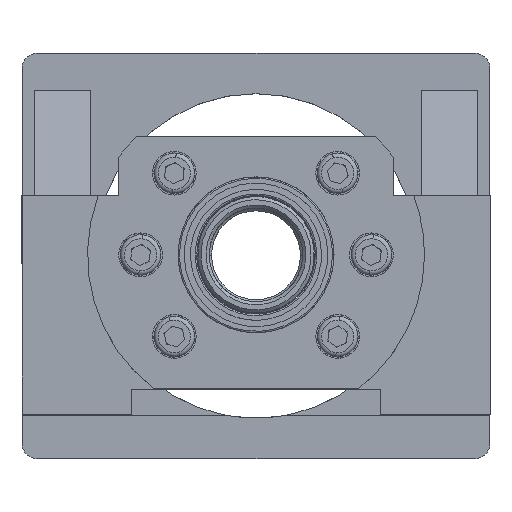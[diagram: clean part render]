
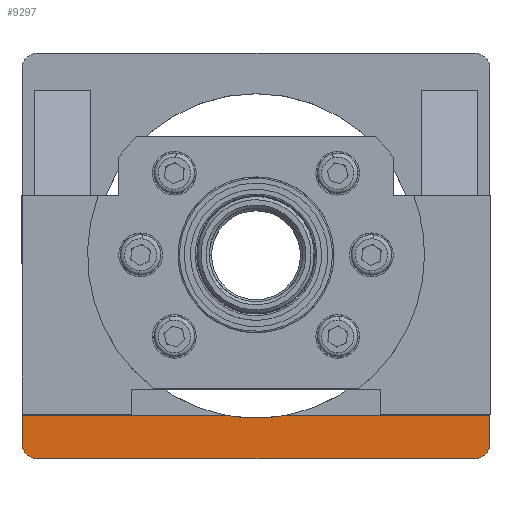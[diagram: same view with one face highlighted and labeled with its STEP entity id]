
A CAD part, top view. The second image highlights one B-rep face of the part: STEP entity #9297.
In plain terms, the highlighted planar face has unit normal (0, 0, 1).
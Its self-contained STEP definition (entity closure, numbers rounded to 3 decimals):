
#69 = EDGE_CURVE ( 'NONE', #19155, #22672, #1536, .T. ) ;
#873 = CARTESIAN_POINT ( 'NONE',  ( -70., -65., 21. ) ) ;
#1536 = LINE ( 'NONE', #18009, #6224 ) ;
#1755 = PLANE ( 'NONE',  #4606 ) ;
#2394 = VERTEX_POINT ( 'NONE', #10990 ) ;
#2870 = CARTESIAN_POINT ( 'NONE',  ( 10.099, -51.01, 21. ) ) ;
#2954 = CARTESIAN_POINT ( 'NONE',  ( 75., -51.01, 21. ) ) ;
#3859 = DIRECTION ( 'NONE',  ( 1., 0., 0. ) ) ;
#4166 = AXIS2_PLACEMENT_3D ( 'NONE', #22679, #10749, #24680 ) ;
#4187 = ORIENTED_EDGE ( 'NONE', *, *, #18259, .T. ) ;
#4411 = EDGE_CURVE ( 'NONE', #22672, #19453, #6824, .T. ) ;
#4567 = ORIENTED_EDGE ( 'NONE', *, *, #14394, .T. ) ;
#4606 = AXIS2_PLACEMENT_3D ( 'NONE', #15656, #15736, #3859 ) ;
#5478 = ORIENTED_EDGE ( 'NONE', *, *, #69, .T. ) ;
#5717 = DIRECTION ( 'NONE',  ( 1., 0., 0. ) ) ;
#6224 = VECTOR ( 'NONE', #25737, 1000. ) ;
#6437 = ORIENTED_EDGE ( 'NONE', *, *, #4411, .T. ) ;
#6550 = EDGE_CURVE ( 'NONE', #13563, #2394, #22365, .T. ) ;
#6824 = CIRCLE ( 'NONE', #19517, 5. ) ;
#7153 = LINE ( 'NONE', #7650, #22374 ) ;
#7231 = CARTESIAN_POINT ( 'NONE',  ( -70., -60., 21. ) ) ;
#7563 = CARTESIAN_POINT ( 'NONE',  ( -75., 65., 21. ) ) ;
#7650 = CARTESIAN_POINT ( 'NONE',  ( 75., 65., 21. ) ) ;
#7712 = CARTESIAN_POINT ( 'NONE',  ( 70., -60., 21. ) ) ;
#8060 = ORIENTED_EDGE ( 'NONE', *, *, #12214, .T. ) ;
#9194 = DIRECTION ( 'NONE',  ( 1., 0., 0. ) ) ;
#9297 = ADVANCED_FACE ( 'NONE', ( #14799 ), #1755, .T. ) ;
#9971 = CARTESIAN_POINT ( 'NONE',  ( -76.047, -51.01, 21. ) ) ;
#9972 = VECTOR ( 'NONE', #21880, 1000. ) ;
#10248 = CIRCLE ( 'NONE', #21292, 5. ) ;
#10467 = CARTESIAN_POINT ( 'NONE',  ( -75., -51.01, 21. ) ) ;
#10545 = EDGE_CURVE ( 'NONE', #19185, #19238, #14618, .T. ) ;
#10749 = DIRECTION ( 'NONE',  ( 0., 0., -1. ) ) ;
#10990 = CARTESIAN_POINT ( 'NONE',  ( -10.099, -51.01, 21. ) ) ;
#11141 = CIRCLE ( 'NONE', #4166, 52. ) ;
#12009 = ORIENTED_EDGE ( 'NONE', *, *, #10545, .F. ) ;
#12214 = EDGE_CURVE ( 'NONE', #14810, #19155, #10248, .T. ) ;
#12393 = EDGE_CURVE ( 'NONE', #19453, #19238, #7153, .T. ) ;
#12709 = ORIENTED_EDGE ( 'NONE', *, *, #6550, .F. ) ;
#13563 = VERTEX_POINT ( 'NONE', #10467 ) ;
#14394 = EDGE_CURVE ( 'NONE', #19185, #2394, #11141, .T. ) ;
#14618 = LINE ( 'NONE', #9971, #9972 ) ;
#14704 = VECTOR ( 'NONE', #25437, 1000. ) ;
#14799 = FACE_OUTER_BOUND ( 'NONE', #25434, .T. ) ;
#14810 = VERTEX_POINT ( 'NONE', #25361 ) ;
#15345 = LINE ( 'NONE', #7563, #14704 ) ;
#15656 = CARTESIAN_POINT ( 'NONE',  ( -104.626, -111., 21. ) ) ;
#15736 = DIRECTION ( 'NONE',  ( 0., 0., 1. ) ) ;
#16618 = CARTESIAN_POINT ( 'NONE',  ( 70., -65., 21. ) ) ;
#17059 = VECTOR ( 'NONE', #24834, 1000. ) ;
#17532 = DIRECTION ( 'NONE',  ( 0., 1., 0. ) ) ;
#18009 = CARTESIAN_POINT ( 'NONE',  ( -75., -65., 21. ) ) ;
#18259 = EDGE_CURVE ( 'NONE', #13563, #14810, #15345, .T. ) ;
#18372 = ORIENTED_EDGE ( 'NONE', *, *, #12393, .T. ) ;
#19155 = VERTEX_POINT ( 'NONE', #873 ) ;
#19185 = VERTEX_POINT ( 'NONE', #2870 ) ;
#19238 = VERTEX_POINT ( 'NONE', #2954 ) ;
#19453 = VERTEX_POINT ( 'NONE', #23155 ) ;
#19517 = AXIS2_PLACEMENT_3D ( 'NONE', #7712, #19627, #5717 ) ;
#19627 = DIRECTION ( 'NONE',  ( 0., 0., 1. ) ) ;
#21097 = DIRECTION ( 'NONE',  ( 0., 0., 1. ) ) ;
#21292 = AXIS2_PLACEMENT_3D ( 'NONE', #7231, #21097, #9194 ) ;
#21880 = DIRECTION ( 'NONE',  ( 1., 0., 0. ) ) ;
#22365 = LINE ( 'NONE', #24750, #17059 ) ;
#22374 = VECTOR ( 'NONE', #17532, 1000. ) ;
#22672 = VERTEX_POINT ( 'NONE', #16618 ) ;
#22679 = CARTESIAN_POINT ( 'NONE',  ( 0., 0., 21. ) ) ;
#23155 = CARTESIAN_POINT ( 'NONE',  ( 75., -60., 21. ) ) ;
#24680 = DIRECTION ( 'NONE',  ( 1., 0., 0. ) ) ;
#24750 = CARTESIAN_POINT ( 'NONE',  ( -76.047, -51.01, 21. ) ) ;
#24834 = DIRECTION ( 'NONE',  ( 1., 0., 0. ) ) ;
#25361 = CARTESIAN_POINT ( 'NONE',  ( -75., -60., 21. ) ) ;
#25434 = EDGE_LOOP ( 'NONE', ( #12709, #4187, #8060, #5478, #6437, #18372, #12009, #4567 ) ) ;
#25437 = DIRECTION ( 'NONE',  ( 0., -1., 0. ) ) ;
#25737 = DIRECTION ( 'NONE',  ( 1., 0., 0. ) ) ;
